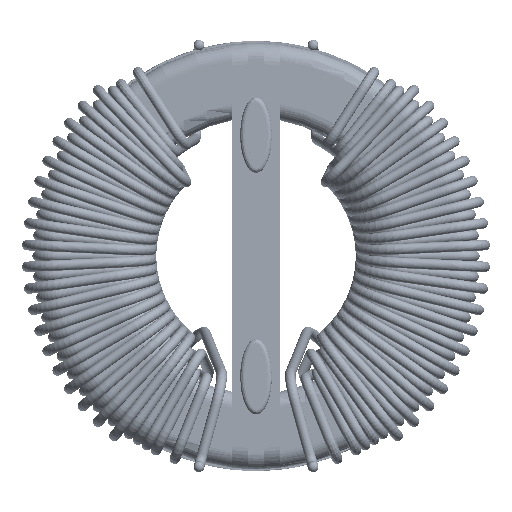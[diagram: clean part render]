
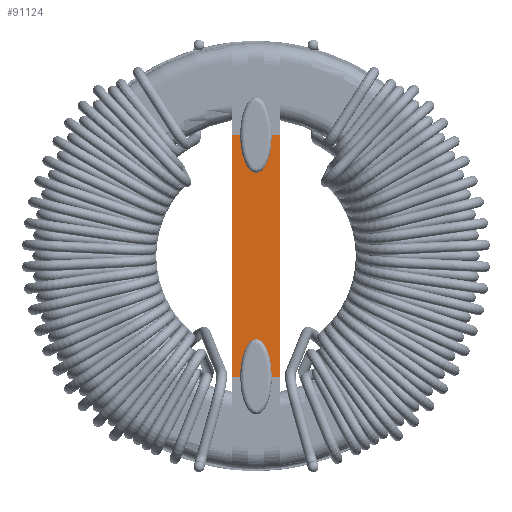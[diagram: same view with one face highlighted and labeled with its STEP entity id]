
A CAD part, front view. The second image highlights one B-rep face of the part: STEP entity #91124.
In plain terms, the highlighted planar face has unit normal (0, -1, 0).
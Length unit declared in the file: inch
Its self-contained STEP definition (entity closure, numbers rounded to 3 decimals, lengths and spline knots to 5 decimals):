
#1573 = VECTOR ( 'NONE', #65873, 39.37008 ) ;
#3734 = AXIS2_PLACEMENT_3D ( 'NONE', #4905, #52309, #79351 ) ;
#4420 = EDGE_CURVE ( 'NONE', #102328, #25785, #83364, .T. ) ;
#4427 = VECTOR ( 'NONE', #67086, 39.37008 ) ;
#4905 = CARTESIAN_POINT ( 'NONE',  ( 0., -0.26083, 0. ) ) ;
#5315 = CARTESIAN_POINT ( 'NONE',  ( 0.02953, -0.26083, -0.22441 ) ) ;
#6624 = LINE ( 'NONE', #89480, #1573 ) ;
#8710 = DIRECTION ( 'NONE',  ( 1., 0., 0. ) ) ;
#8987 = VERTEX_POINT ( 'NONE', #40210 ) ;
#9935 = CARTESIAN_POINT ( 'NONE',  ( 0.02953, -0.26083, 0.22441 ) ) ;
#10489 = EDGE_CURVE ( 'NONE', #41740, #48452, #51842, .T. ) ;
#13476 = ORIENTED_EDGE ( 'NONE', *, *, #71716, .F. ) ;
#14999 = ORIENTED_EDGE ( 'NONE', *, *, #10489, .T. ) ;
#22015 = CARTESIAN_POINT ( 'NONE',  ( -0.04429, -0.26083, -0.22441 ) ) ;
#25785 = VERTEX_POINT ( 'NONE', #5315 ) ;
#25982 = CARTESIAN_POINT ( 'NONE',  ( 0.02953, -0.26083, 0.08436 ) ) ;
#26797 = CARTESIAN_POINT ( 'NONE',  ( 0.73245, -0.26083, 0.22441 ) ) ;
#27301 = CARTESIAN_POINT ( 'NONE',  ( -0.04429, -0.26083, -0.22441 ) ) ;
#28452 = DIRECTION ( 'NONE',  ( -1., 0., 0. ) ) ;
#29309 = EDGE_CURVE ( 'NONE', #91736, #91279, #102952, .T. ) ;
#29358 = EDGE_CURVE ( 'NONE', #91279, #8987, #69066, .T. ) ;
#36761 = VECTOR ( 'NONE', #28452, 39.37008 ) ;
#37795 = VECTOR ( 'NONE', #101842, 39.37008 ) ;
#39173 = CARTESIAN_POINT ( 'NONE',  ( -0.73245, -0.26083, 0.22441 ) ) ;
#40210 = CARTESIAN_POINT ( 'NONE',  ( -0.02953, -0.26083, 0.22441 ) ) ;
#40891 = LINE ( 'NONE', #39173, #53770 ) ;
#41740 = VERTEX_POINT ( 'NONE', #22015 ) ;
#44757 = ORIENTED_EDGE ( 'NONE', *, *, #29358, .T. ) ;
#45341 = CARTESIAN_POINT ( 'NONE',  ( 0.02953, -0.26083, -0.22441 ) ) ;
#48452 = VERTEX_POINT ( 'NONE', #52426 ) ;
#49660 = ORIENTED_EDGE ( 'NONE', *, *, #54875, .T. ) ;
#51333 = DIRECTION ( 'NONE',  ( -1., 0., 0. ) ) ;
#51816 = ORIENTED_EDGE ( 'NONE', *, *, #29309, .T. ) ;
#51842 = LINE ( 'NONE', #95765, #4427 ) ;
#52309 = DIRECTION ( 'NONE',  ( 0., 1., 0. ) ) ;
#52426 = CARTESIAN_POINT ( 'NONE',  ( -0.02953, -0.26083, -0.22441 ) ) ;
#53770 = VECTOR ( 'NONE', #8710, 39.37008 ) ;
#54875 = EDGE_CURVE ( 'NONE', #67348, #41740, #68021, .T. ) ;
#57200 = CARTESIAN_POINT ( 'NONE',  ( 0.02953, -0.26083, -0.08436 ) ) ;
#65873 = DIRECTION ( 'NONE',  ( 0., 0., 1. ) ) ;
#66129 = EDGE_LOOP ( 'NONE', ( #14999, #13476, #68081, #72983, #51816, #44757, #73203, #49660 ) ) ;
#66325 = EDGE_CURVE ( 'NONE', #102328, #91736, #6624, .T. ) ;
#67086 = DIRECTION ( 'NONE',  ( 1., 0., 0. ) ) ;
#67343 = CARTESIAN_POINT ( 'NONE',  ( -0.02953, -0.26083, -0.08436 ) ) ;
#67348 = VERTEX_POINT ( 'NONE', #99748 ) ;
#68021 = LINE ( 'NONE', #27301, #37795 ) ;
#68081 = ORIENTED_EDGE ( 'NONE', *, *, #4420, .F. ) ;
#69066 =( BOUNDED_CURVE ( )  B_SPLINE_CURVE ( 3, ( #71756, #25982, #102215, #85222 ),
 .UNSPECIFIED., .F., .F. ) 
 B_SPLINE_CURVE_WITH_KNOTS ( ( 4, 4 ),
 ( 1.5708, 4.71239 ),
 .UNSPECIFIED. ) 
 CURVE ( )  GEOMETRIC_REPRESENTATION_ITEM ( )  RATIONAL_B_SPLINE_CURVE ( ( 1., 0.333, 0.333, 1. ) ) 
 REPRESENTATION_ITEM ( '' )  );
#70897 = PLANE ( 'NONE',  #3734 ) ;
#71716 = EDGE_CURVE ( 'NONE', #25785, #48452, #83184, .T. ) ;
#71756 = CARTESIAN_POINT ( 'NONE',  ( 0.02953, -0.26083, 0.22441 ) ) ;
#72389 = CARTESIAN_POINT ( 'NONE',  ( -0.02953, -0.26083, -0.22441 ) ) ;
#72983 = ORIENTED_EDGE ( 'NONE', *, *, #66325, .T. ) ;
#73203 = ORIENTED_EDGE ( 'NONE', *, *, #97917, .F. ) ;
#75854 = CARTESIAN_POINT ( 'NONE',  ( 0.04429, -0.26083, 0.22441 ) ) ;
#79351 = DIRECTION ( 'NONE',  ( 0., 0., 1. ) ) ;
#80797 = VECTOR ( 'NONE', #51333, 39.37008 ) ;
#80978 = FACE_OUTER_BOUND ( 'NONE', #66129, .T. ) ;
#83184 =( BOUNDED_CURVE ( )  B_SPLINE_CURVE ( 3, ( #45341, #57200, #67343, #72389 ),
 .UNSPECIFIED., .F., .F. ) 
 B_SPLINE_CURVE_WITH_KNOTS ( ( 4, 4 ),
 ( 1.5708, 4.71239 ),
 .UNSPECIFIED. ) 
 CURVE ( )  GEOMETRIC_REPRESENTATION_ITEM ( )  RATIONAL_B_SPLINE_CURVE ( ( 1., 0.333, 0.333, 1. ) ) 
 REPRESENTATION_ITEM ( '' )  );
#83364 = LINE ( 'NONE', #100342, #80797 ) ;
#85222 = CARTESIAN_POINT ( 'NONE',  ( -0.02953, -0.26083, 0.22441 ) ) ;
#89480 = CARTESIAN_POINT ( 'NONE',  ( 0.04429, -0.26083, 0.22441 ) ) ;
#91124 = ADVANCED_FACE ( 'NONE', ( #80978 ), #70897, .F. ) ;
#91279 = VERTEX_POINT ( 'NONE', #9935 ) ;
#91736 = VERTEX_POINT ( 'NONE', #75854 ) ;
#95765 = CARTESIAN_POINT ( 'NONE',  ( -0.73245, -0.26083, -0.22441 ) ) ;
#97917 = EDGE_CURVE ( 'NONE', #67348, #8987, #40891, .T. ) ;
#99590 = CARTESIAN_POINT ( 'NONE',  ( 0.04429, -0.26083, -0.22441 ) ) ;
#99748 = CARTESIAN_POINT ( 'NONE',  ( -0.04429, -0.26083, 0.22441 ) ) ;
#100342 = CARTESIAN_POINT ( 'NONE',  ( 0.73245, -0.26083, -0.22441 ) ) ;
#101842 = DIRECTION ( 'NONE',  ( 0., 0., -1. ) ) ;
#102215 = CARTESIAN_POINT ( 'NONE',  ( -0.02953, -0.26083, 0.08436 ) ) ;
#102328 = VERTEX_POINT ( 'NONE', #99590 ) ;
#102952 = LINE ( 'NONE', #26797, #36761 ) ;
